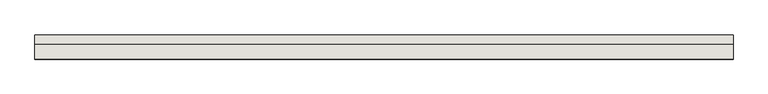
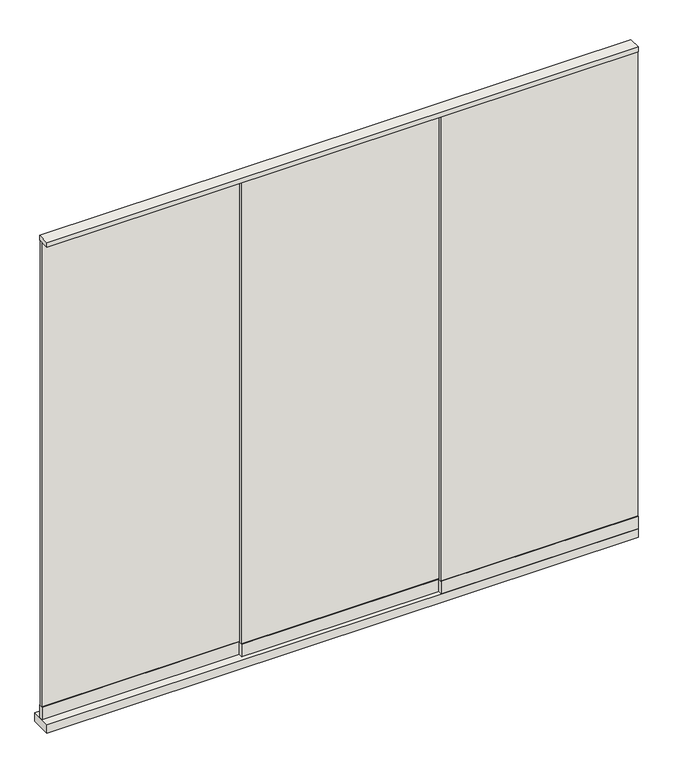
"""IFC4 building model written with IfcOpenShell, lengths in millimetres: wall geometry, Renson_Algarve_Glass_Sliding_Panel : Renson_Algarve_Glass_Sliding_Panel."""

from ifc_helpers import new_model, si_unit, frame, origin, origin_with_axes, place, context, project, spatial, polyline, outline, extrude, source, transform, mapped, element, save


def wall_bdcc315b(model_context):
    return source(origin(), model_context, "Body", "SweptSolid", [
        extrude(outline(polyline([(750.0, 0.0), (-1530.0, 0.0), (-1530.0, 80.0), (750.0, 80.0), (750.0, 0.0)])), origin_with_axes(), (0.0, 0.0, 1.0), 35.0),
        extrude(outline(polyline([(750.0, 3.0), (-10.0, 3.0), (-10.0, 13.0), (750.0, 13.0), (750.0, 3.0)])), frame((0.0, 0.0, 86.0), z_axis=(0.0, 0.0, 1.0), x_axis=(1.0, 0.0, 0.0)), (0.0, 0.0, 1.0), 1894.0),
        extrude(outline(polyline([(25.0, 19.0), (-770.0, 19.0), (-770.0, 29.0), (25.0, 29.0), (25.0, 19.0)])), frame((0.0, 0.0, 86.0), z_axis=(0.0, 0.0, 1.0), x_axis=(1.0, 0.0, 0.0)), (0.0, 0.0, 1.0), 1894.0),
        extrude(outline(polyline([(-735.0, 35.0), (-1530.0, 35.0), (-1530.0, 45.0), (-735.0, 45.0), (-735.0, 35.0)])), frame((0.0, 0.0, 86.0), z_axis=(0.0, 0.0, 1.0), x_axis=(1.0, 0.0, 0.0)), (0.0, 0.0, 1.0), 1894.0),
        extrude(outline(polyline([(750.0, 0.0), (-1530.0, 0.0), (-1530.0, 48.0), (750.0, 48.0), (750.0, 0.0)])), frame((0.0, 0.0, 1980.0), z_axis=(0.0, 0.0, 1.0), x_axis=(1.0, 0.0, 0.0)), (0.0, 0.0, 1.0), 20.0),
        extrude(outline(polyline([(750.0, 0.0), (-10.0, 0.0), (-10.0, 16.0), (750.0, 16.0), (750.0, 0.0)])), frame((0.0, 0.0, 35.0), z_axis=(0.0, 0.0, 1.0), x_axis=(1.0, 0.0, 0.0)), (0.0, 0.0, 1.0), 51.0),
        extrude(outline(polyline([(25.0, 16.0), (-770.0, 16.0), (-770.0, 32.0), (25.0, 32.0), (25.0, 16.0)])), frame((0.0, 0.0, 35.0), z_axis=(0.0, 0.0, 1.0), x_axis=(1.0, 0.0, 0.0)), (0.0, 0.0, 1.0), 51.0),
        extrude(outline(polyline([(-735.0, 32.0), (-1530.0, 32.0), (-1530.0, 48.0), (-735.0, 48.0), (-735.0, 32.0)])), frame((0.0, 0.0, 35.0), z_axis=(0.0, 0.0, 1.0), x_axis=(1.0, 0.0, 0.0)), (0.0, 0.0, 1.0), 51.0),
    ])


if __name__ == "__main__":
    model = new_model("IFC4")
    model_context = context("Model", 3, world=origin())
    ifc_project = project(units=[si_unit("LENGTHUNIT", "METRE", prefix="MILLI")], contexts=[model_context])
    site = spatial("IfcSite", under=ifc_project)
    building = spatial("IfcBuilding", under=site)
    placement = place(None, origin())
    wall_shape = wall_bdcc315b(model_context)
    element("IfcWall", 1, ObjectType="Renson_Algarve_Glass_Sliding_Panel : Renson_Algarve_Glass_Sliding_Panel", at=placement, inside=building, context=model_context, shape_type="MappedRepresentation", body=[
        mapped(wall_shape, transform((0.0, 0.0, 0.0), x_axis=(1.0, 0.0, 0.0), y_axis=(0.0, 1.0, 0.0), z_axis=(0.0, 0.0, 1.0))),
    ])
    save(model, "model.ifc")
